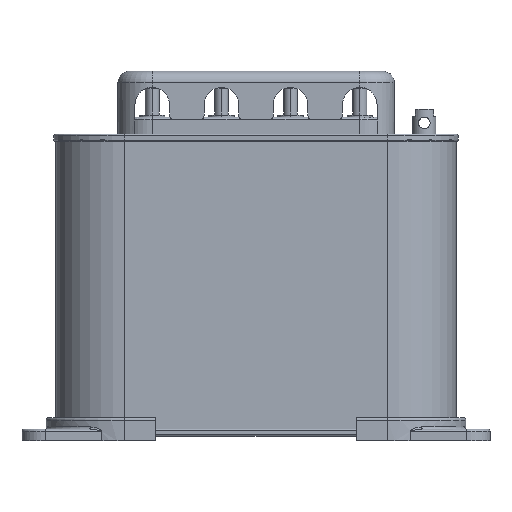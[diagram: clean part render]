
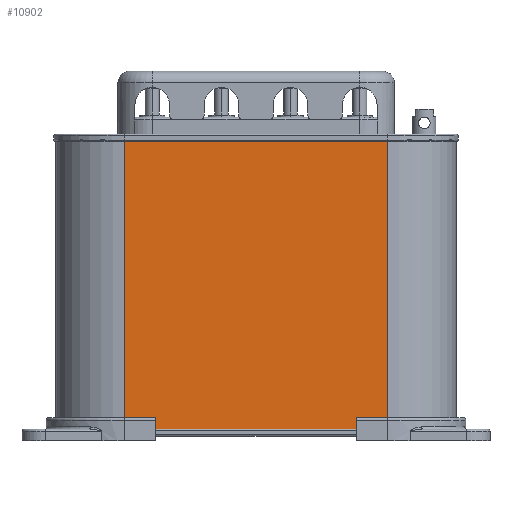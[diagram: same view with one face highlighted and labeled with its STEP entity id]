
A CAD part, front view. The second image highlights one B-rep face of the part: STEP entity #10902.
In plain terms, the highlighted planar face has unit normal (0, -1, 0).
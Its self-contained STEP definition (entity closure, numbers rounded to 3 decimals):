
#1195=DIRECTION('',(0.,0.,-1.));
#1196=VECTOR('',#1195,120.4);
#1197=CARTESIAN_POINT('',(-57.,-29.78,63.12));
#1198=LINE('',#1197,#1196);
#1208=DIRECTION('',(-1.,0.,0.));
#1209=VECTOR('',#1208,114.);
#1210=CARTESIAN_POINT('',(57.,-29.78,63.12));
#1211=LINE('',#1210,#1209);
#1212=DIRECTION('',(-1.,0.,0.));
#1213=VECTOR('',#1212,13.5);
#1214=CARTESIAN_POINT('',(57.,-29.78,-57.28));
#1215=LINE('',#1214,#1213);
#1216=DIRECTION('',(0.,0.,1.));
#1217=VECTOR('',#1216,4.);
#1218=CARTESIAN_POINT('',(43.5,-29.78,-61.28));
#1219=LINE('',#1218,#1217);
#1220=DIRECTION('',(0.707,0.,-0.707));
#1221=VECTOR('',#1220,0.707);
#1222=CARTESIAN_POINT('',(43.5,-29.78,-61.28));
#1223=LINE('',#1222,#1221);
#1224=DIRECTION('',(-1.,0.,0.));
#1225=VECTOR('',#1224,13.);
#1226=CARTESIAN_POINT('',(57.,-29.78,-61.78));
#1227=LINE('',#1226,#1225);
#1228=DIRECTION('',(1.,0.,0.));
#1229=VECTOR('',#1228,114.);
#1230=CARTESIAN_POINT('',(-57.,-29.78,-62.68));
#1231=LINE('',#1230,#1229);
#1232=DIRECTION('',(1.,0.,0.));
#1233=VECTOR('',#1232,13.);
#1234=CARTESIAN_POINT('',(-57.,-29.78,-61.78));
#1235=LINE('',#1234,#1233);
#1236=DIRECTION('',(-0.707,0.,-0.707));
#1237=VECTOR('',#1236,0.707);
#1238=CARTESIAN_POINT('',(-43.5,-29.78,-61.28));
#1239=LINE('',#1238,#1237);
#1240=DIRECTION('',(0.,0.,1.));
#1241=VECTOR('',#1240,4.);
#1242=CARTESIAN_POINT('',(-43.5,-29.78,-61.28));
#1243=LINE('',#1242,#1241);
#1244=DIRECTION('',(1.,0.,0.));
#1245=VECTOR('',#1244,13.5);
#1246=CARTESIAN_POINT('',(-57.,-29.78,-57.28));
#1247=LINE('',#1246,#1245);
#1268=DIRECTION('',(0.,0.,1.));
#1269=VECTOR('',#1268,120.4);
#1270=CARTESIAN_POINT('',(57.,-29.78,-57.28));
#1271=LINE('',#1270,#1269);
#1442=DIRECTION('',(0.,0.,-1.));
#1443=VECTOR('',#1442,0.9);
#1444=CARTESIAN_POINT('',(-57.,-29.78,-61.78));
#1445=LINE('',#1444,#1443);
#1480=DIRECTION('',(0.,0.,1.));
#1481=VECTOR('',#1480,0.9);
#1482=CARTESIAN_POINT('',(57.,-29.78,-62.68));
#1483=LINE('',#1482,#1481);
#7900=CARTESIAN_POINT('',(-57.,-29.78,-62.68));
#7902=VERTEX_POINT('',#7900);
#7903=CARTESIAN_POINT('',(57.,-29.78,-62.68));
#7904=VERTEX_POINT('',#7903);
#8253=CARTESIAN_POINT('',(-57.,-29.78,-57.28));
#8255=VERTEX_POINT('',#8253);
#8257=CARTESIAN_POINT('',(-57.,-29.78,-61.78));
#8259=VERTEX_POINT('',#8257);
#8260=CARTESIAN_POINT('',(-43.5,-29.78,-57.28));
#8261=VERTEX_POINT('',#8260);
#8262=CARTESIAN_POINT('',(-43.5,-29.78,-61.28));
#8263=VERTEX_POINT('',#8262);
#8264=CARTESIAN_POINT('',(-44.,-29.78,-61.78));
#8265=VERTEX_POINT('',#8264);
#8559=CARTESIAN_POINT('',(57.,-29.78,-57.28));
#8560=CARTESIAN_POINT('',(43.5,-29.78,-57.28));
#8561=VERTEX_POINT('',#8559);
#8562=VERTEX_POINT('',#8560);
#8563=CARTESIAN_POINT('',(43.5,-29.78,-61.28));
#8564=VERTEX_POINT('',#8563);
#8565=CARTESIAN_POINT('',(57.,-29.78,-61.78));
#8566=CARTESIAN_POINT('',(44.,-29.78,-61.78));
#8567=VERTEX_POINT('',#8565);
#8568=VERTEX_POINT('',#8566);
#8796=CARTESIAN_POINT('',(-57.,-29.78,63.12));
#8798=VERTEX_POINT('',#8796);
#8799=CARTESIAN_POINT('',(57.,-29.78,63.12));
#8800=VERTEX_POINT('',#8799);
#10868=CARTESIAN_POINT('',(-57.,-29.78,64.72));
#10869=DIRECTION('',(0.,-1.,0.));
#10870=DIRECTION('',(0.,0.,-1.));
#10871=AXIS2_PLACEMENT_3D('',#10868,#10869,#10870);
#10872=PLANE('',#10871);
#10874=ORIENTED_EDGE('',*,*,#10873,.F.);
#10876=ORIENTED_EDGE('',*,*,#10875,.F.);
#10878=ORIENTED_EDGE('',*,*,#10877,.T.);
#10880=ORIENTED_EDGE('',*,*,#10879,.F.);
#10882=ORIENTED_EDGE('',*,*,#10881,.T.);
#10884=ORIENTED_EDGE('',*,*,#10883,.F.);
#10886=ORIENTED_EDGE('',*,*,#10885,.F.);
#10888=ORIENTED_EDGE('',*,*,#10887,.F.);
#10890=ORIENTED_EDGE('',*,*,#10889,.F.);
#10892=ORIENTED_EDGE('',*,*,#10891,.T.);
#10894=ORIENTED_EDGE('',*,*,#10893,.F.);
#10896=ORIENTED_EDGE('',*,*,#10895,.T.);
#10898=ORIENTED_EDGE('',*,*,#10897,.F.);
#10899=ORIENTED_EDGE('',*,*,#10859,.F.);
#10900=EDGE_LOOP('',(#10874,#10876,#10878,#10880,#10882,#10884,#10886,#10888,
#10890,#10892,#10894,#10896,#10898,#10899));
#10901=FACE_OUTER_BOUND('',#10900,.F.);
#10902=ADVANCED_FACE('',(#10901),#10872,.T.);
#10859=EDGE_CURVE('',#8798,#8255,#1198,.T.);
#10873=EDGE_CURVE('',#8800,#8798,#1211,.T.);
#10875=EDGE_CURVE('',#8561,#8800,#1271,.T.);
#10877=EDGE_CURVE('',#8561,#8562,#1215,.T.);
#10879=EDGE_CURVE('',#8564,#8562,#1219,.T.);
#10881=EDGE_CURVE('',#8564,#8568,#1223,.T.);
#10883=EDGE_CURVE('',#8567,#8568,#1227,.T.);
#10885=EDGE_CURVE('',#7904,#8567,#1483,.T.);
#10887=EDGE_CURVE('',#7902,#7904,#1231,.T.);
#10889=EDGE_CURVE('',#8259,#7902,#1445,.T.);
#10891=EDGE_CURVE('',#8259,#8265,#1235,.T.);
#10893=EDGE_CURVE('',#8263,#8265,#1239,.T.);
#10895=EDGE_CURVE('',#8263,#8261,#1243,.T.);
#10897=EDGE_CURVE('',#8255,#8261,#1247,.T.);
